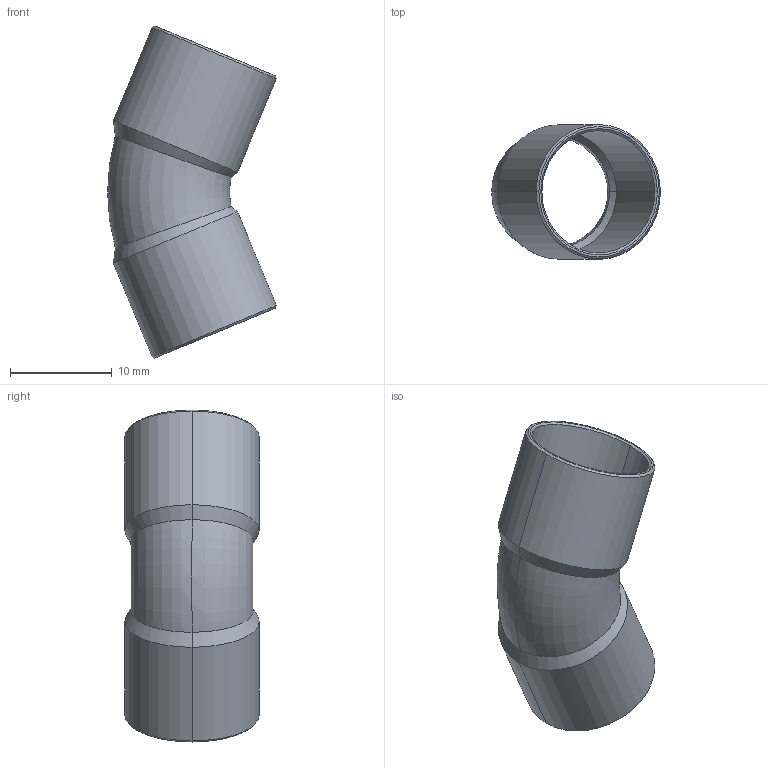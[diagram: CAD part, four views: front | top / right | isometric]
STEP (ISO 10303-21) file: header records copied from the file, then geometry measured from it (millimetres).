
FILE_DESCRIPTION((''),'2;1');
FILE_NAME('P:\Bouwmaten\z-maattekeningen 3D\5000\5040\1504112.stp','2005-10-12T14:24:11',('Kris'),(''),'Autodesk Inventor 8','Autodesk Inventor 8','');
FILE_SCHEMA(('AUTOMOTIVE_DESIGN { 1 0 10303 214 1 1 1 1 }'));
Length unit declared in the file: millimetre
Products named in the file (1): 1504112
Bounding box: 16.57 x 13.2 x 32.61 mm (x, y, z)
Volume: 683 mm3; surface area: 2316 mm2
Topology: 1 solids, 1 shells, 30 faces, 60 edges, 32 vertices
Faces by surface type: cone 12, bspline 9, torus 4, cylinder 4, plane 1
Entity records: 1027 total; most frequent: CARTESIAN_POINT 414, DIRECTION 124, ORIENTED_EDGE 120, EDGE_CURVE 60, AXIS2_PLACEMENT_3D 50, VERTEX_POINT 32, EDGE_LOOP 32, FACE_OUTER_BOUND 30
